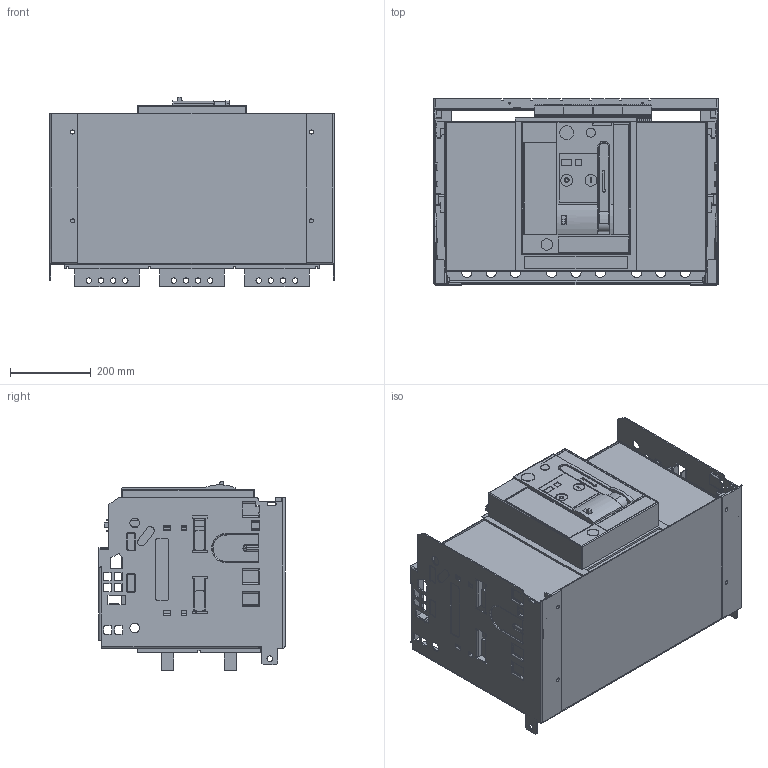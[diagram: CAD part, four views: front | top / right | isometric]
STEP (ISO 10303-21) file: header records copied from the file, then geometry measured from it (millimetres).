
FILE_DESCRIPTION (( 'STEP AP214' ), '1' );
FILE_NAME ('ARION_WL1350-___36.step', '2012-05-21T13:43:18', ( 'Radek Veselý' ), ( 'Siemens and Partners' ), 'SwSTEP 2.0', 'SolidWorks 2006303', '' );
FILE_SCHEMA (( 'AUTOMOTIVE_DESIGN' ));
Length unit declared in the file: millimetre
Products named in the file (1): ARION_WL1350-___36
Bounding box: 704 x 460 x 468.22 mm (x, y, z)
Volume: 73687979.7 mm3; surface area: 3743631.6 mm2
Topology: 10 solids, 10 shells, 3338 faces, 8830 edges, 5823 vertices
Faces by surface type: plane 2580, cylinder 735, torus 13, sphere 8, bspline 2
Entity records: 139744 total; most frequent: CARTESIAN_POINT 18174, ORIENTED_EDGE 17640, DIRECTION 16976, EDGE_CURVE 8820, VECTOR 7302, LINE 7302, VERTEX_POINT 5823, AXIS2_PLACEMENT_3D 4837
